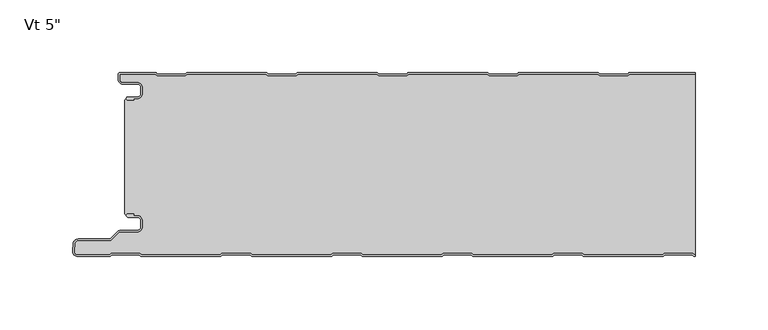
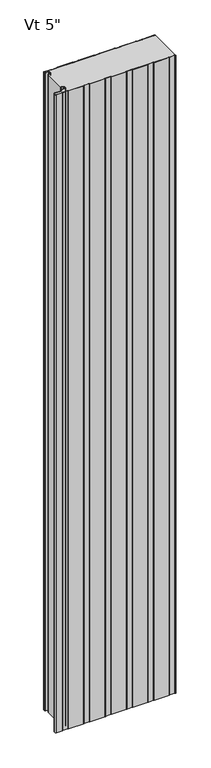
"""IFC4 building model written with IfcOpenShell, lengths in millimetres: plate geometry."""

from ifc_helpers import new_model, si_unit, point, frame, frame_2d, origin, origin_with_axes, place, context, project, spatial, polyline, circle_curve, trimmed, segment, composite_curve, outline, extrude, source, transform, mapped, element, save
from ifc_brep_helpers import plane_surface, cylinder_surface, revolved_surface, advanced_brep


def plate_6d36e98c(model_context):
    return source(origin(), model_context, "Body", "SolidModel", [
        advanced_brep(
        [(-194.5686912, -17.0015405, 2400.0), (-195.5686884, -18.0015437, 2400.0), (-194.5686912, -19.0015351, 2400.0), (-190.5684875, -19.0015351, 2400.0), (-190.5684875, -18.0015405, 2400.0), (-187.8762777, -18.0015405, 2400.0), (-184.576282, -14.7015448, 2400.0), (-184.576282, -10.3015536, 2400.0), (-187.8762775, -7.0015581, 2400.0), (-198.2962564, -7.0015581, 2400.0), (-200.0662506, -5.2315639, 2400.0), (-200.0662506, -1.0000163, 2400.0), (-175.565974, -1.0000162, 2400.0), (-174.1803314, -2.2002553, 2400.0), (-154.8051651, -2.2002553, 2400.0), (-153.4195321, -1.0000245, 2400.0), (-99.3661168, -1.0000245, 2400.0), (-97.9804838, -2.2002552, 2400.0), (-78.6053175, -2.2002551, 2400.0), (-77.2196845, -1.0000244, 2400.0), (-23.1662692, -1.0000243, 2400.0), (-21.7806362, -2.200255, 2400.0), (-2.4054699, -2.200255, 2400.0), (-1.0198369, -1.0000243, 2400.0), (53.0335784, -1.0000242, 2400.0), (54.4192114, -2.2002549, 2400.0), (73.7943777, -2.2002548, 2400.0), (75.1800107, -1.0000241, 2400.0), (129.233426, -1.000024, 2400.0), (130.619059, -2.2002547, 2400.0), (149.9942253, -2.2002547, 2400.0), (151.3798583, -1.000024, 2400.0), (196.5999997, -1.0000239, 2400.0), (196.5999997, -2.39e-05, 2400.0), (151.5290094, -2.4e-05, 2400.0), (150.6123925, -0.3418125, 2400.0), (149.6213449, -1.2002547, 2400.0), (130.9919394, -1.2002547, 2400.0), (130.0008918, -0.3418125, 2400.0), (129.0842749, -2.4e-05, 2400.0), (75.3291618, -2.41e-05, 2400.0), (74.4125449, -0.3418126, 2400.0), (73.4214973, -1.2002548, 2400.0), (54.7920918, -1.2002549, 2400.0), (53.8010442, -0.3418127, 2400.0), (52.8844273, -2.42e-05, 2400.0), (-0.8706858, -2.43e-05, 2400.0), (-1.7873027, -0.3418128, 2400.0), (-2.7783503, -1.200255, 2400.0), (-21.4077558, -1.200255, 2400.0), (-22.3988034, -0.3418128, 2400.0), (-23.3154203, -2.43e-05, 2400.0), (-77.0705334, -2.44e-05, 2400.0), (-77.9871503, -0.3418129, 2400.0), (-78.9781979, -1.2002551, 2400.0), (-97.6076034, -1.2002552, 2400.0), (-98.598651, -0.341813, 2400.0), (-99.5152679, -2.44e-05, 2400.0), (-153.270381, -2.45e-05, 2400.0), (-154.1869979, -0.3418131, 2400.0), (-155.1780455, -1.2002553, 2400.0), (-173.807451, -1.2002553, 2400.0), (-174.7984986, -0.3418131, 2400.0), (-175.7152069, -2.46e-05, 2400.0), (-199.6662545, -1.63e-05, 2400.0), (-201.0662506, -1.4000124, 2400.0), (-201.0662506, -5.2315639, 2400.0), (-198.2962564, -8.0015581, 2400.0), (-187.8762775, -8.0015581, 2400.0), (-185.576282, -10.3015536, 2400.0), (-185.576282, -14.7015448, 2400.0), (-187.8762777, -17.0015405, 2400.0), (-194.5686912, -17.0015405, 0.0), (-187.8762777, -17.0015405, 0.0), (-185.576282, -14.7015448, 0.0), (-185.576282, -10.3015536, 0.0), (-187.8762775, -8.0015581, 0.0), (-198.2962564, -8.0015581, 0.0), (-201.0662506, -5.2315639, 0.0), (-201.0662506, -1.4000124, 0.0), (-199.6662545, -1.63e-05, 0.0), (-175.7151155, -1.62e-05, 0.0), (-174.7984986, -0.3418131, 0.0), (-173.807451, -1.2002553, 0.0), (-155.1780455, -1.2002553, 0.0), (-154.1869979, -0.3418131, 0.0), (-153.270381, -2.45e-05, 0.0), (-99.5152679, -2.45e-05, 0.0), (-98.598651, -0.341813, 0.0), (-97.6076034, -1.2002552, 0.0), (-78.9781979, -1.2002551, 0.0), (-77.9871503, -0.3418129, 0.0), (-77.0705334, -2.44e-05, 0.0), (-23.3154203, -2.43e-05, 0.0), (-22.3988034, -0.3418128, 0.0), (-21.4077558, -1.200255, 0.0), (-2.7783503, -1.200255, 0.0), (-1.7873027, -0.3418128, 0.0), (-0.8706858, -2.43e-05, 0.0), (52.8844273, -2.42e-05, 0.0), (53.8010442, -0.3418127, 0.0), (54.7920918, -1.2002549, 0.0), (73.4214973, -1.2002548, 0.0), (74.4125449, -0.3418126, 0.0), (75.3291618, -2.41e-05, 0.0), (129.0842749, -2.4e-05, 0.0), (130.0008918, -0.3418125, 0.0), (130.9919394, -1.2002547, 0.0), (149.6213449, -1.2002547, 0.0), (150.6123925, -0.3418125, 0.0), (151.5290094, -2.4e-05, 0.0), (196.5999997, -2.39e-05, 0.0), (196.5999997, -1.0000239, 0.0), (151.3798583, -1.000024, 0.0), (149.9942253, -2.2002547, 0.0), (130.619059, -2.2002547, 0.0), (129.233426, -1.000024, 0.0), (75.1800107, -1.0000241, 0.0), (73.7943777, -2.2002548, 0.0), (54.4192114, -2.2002549, 0.0), (53.0335784, -1.0000242, 0.0), (-1.0198369, -1.0000243, 0.0), (-2.4054699, -2.200255, 0.0), (-21.7806362, -2.200255, 0.0), (-23.1662692, -1.0000243, 0.0), (-77.2196845, -1.0000244, 0.0), (-78.6053175, -2.2002551, 0.0), (-97.9804838, -2.2002552, 0.0), (-99.3661168, -1.0000245, 0.0), (-153.4195321, -1.0000245, 0.0), (-154.8051651, -2.2002553, 0.0), (-174.1803314, -2.2002553, 0.0), (-175.565974, -1.0000162, 0.0), (-200.0662506, -1.0000163, 0.0), (-200.0662506, -5.2315639, 0.0), (-198.2962564, -7.0015581, 0.0), (-187.8762775, -7.0015581, 0.0), (-184.576282, -10.3015536, 0.0), (-184.576282, -14.7015448, 0.0), (-187.8762777, -18.0015405, 0.0), (-190.5684875, -18.0015405, 0.0), (-190.5684875, -19.0015351, 0.0), (-194.5686912, -19.0015351, 0.0), (-195.5686883, -18.0015438, 0.0)],
        [
            (0, 1, circle_curve(frame((-194.5686912, -18.0015378, 2400.0), z_axis=(0.0, 0.0, 1.0), x_axis=(1.0, 1.7886562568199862e-09, 0.0)), 0.9999973)),
            (1, 2, circle_curve(frame((-194.5686912, -18.0015379, 2400.0), z_axis=(0.0, 0.0, 1.0), x_axis=(1.0, 1.7886562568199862e-09, 0.0)), 0.9999972)),
            (2, 3),
            (3, 4),
            (4, 5),
            (5, 6, circle_curve(frame((-187.8762777, -14.7015448, 2400.0), z_axis=(0.0, 0.0, 1.0), x_axis=(1.0, 1.7886562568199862e-09, 0.0)), 3.2999957)),
            (6, 7),
            (7, 8, circle_curve(frame((-187.8762775, -10.3015536, 2400.0), z_axis=(0.0, 0.0, 1.0), x_axis=(1.0, 1.7886562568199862e-09, 0.0)), 3.2999955)),
            (8, 9),
            (9, 10, circle_curve(frame((-198.2962564, -5.2315639, 2400.0), z_axis=(0.0, 0.0, -1.0), x_axis=(1.0, 1.7886562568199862e-09, 0.0)), 1.7699942)),
            (10, 11),
            (11, 12),
            (12, 13),
            (13, 14),
            (14, 15),
            (15, 16),
            (16, 17),
            (17, 18),
            (18, 19),
            (19, 20),
            (20, 21),
            (21, 22),
            (22, 23),
            (23, 24),
            (24, 25),
            (25, 26),
            (26, 27),
            (27, 28),
            (28, 29),
            (29, 30),
            (30, 31),
            (31, 32),
            (32, 33),
            (33, 34),
            (34, 35, circle_curve(frame((151.5290094, -1.4000212, 2400.0), z_axis=(0.0, 0.0, 1.0), x_axis=(1.0, 1.7886562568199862e-09, 0.0)), 1.3999972)),
            (35, 36),
            (36, 37),
            (37, 38),
            (38, 39, circle_curve(frame((129.0842749, -1.4000212, 2400.0), z_axis=(0.0, 0.0, 1.0), x_axis=(1.0, 1.7886562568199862e-09, 0.0)), 1.3999972)),
            (39, 40),
            (40, 41, circle_curve(frame((75.3291618, -1.4000213, 2400.0), z_axis=(0.0, 0.0, 1.0), x_axis=(1.0, 1.7886562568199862e-09, 0.0)), 1.3999972)),
            (41, 42),
            (42, 43),
            (43, 44),
            (44, 45, circle_curve(frame((52.8844273, -1.4000214, 2400.0), z_axis=(0.0, 0.0, 1.0), x_axis=(1.0, 1.7886562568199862e-09, 0.0)), 1.3999972)),
            (45, 46),
            (46, 47, circle_curve(frame((-0.8706858, -1.4000215, 2400.0), z_axis=(0.0, 0.0, 1.0), x_axis=(1.0, 1.7886562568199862e-09, 0.0)), 1.3999972)),
            (47, 48),
            (48, 49),
            (49, 50),
            (50, 51, circle_curve(frame((-23.3154203, -1.4000215, 2400.0), z_axis=(0.0, 0.0, 1.0), x_axis=(1.0, 1.7886562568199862e-09, 0.0)), 1.3999972)),
            (51, 52),
            (52, 53, circle_curve(frame((-77.0705334, -1.4000216, 2400.0), z_axis=(0.0, 0.0, 1.0), x_axis=(1.0, 1.7886562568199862e-09, 0.0)), 1.3999972)),
            (53, 54),
            (54, 55),
            (55, 56),
            (56, 57, circle_curve(frame((-99.5152679, -1.4000216, 2400.0), z_axis=(0.0, 0.0, 1.0), x_axis=(1.0, 1.7886562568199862e-09, 0.0)), 1.3999972)),
            (57, 58),
            (58, 59, circle_curve(frame((-153.270381, -1.4000217, 2400.0), z_axis=(0.0, 0.0, 1.0), x_axis=(1.0, 1.7886562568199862e-09, 0.0)), 1.3999972)),
            (59, 60),
            (60, 61),
            (61, 62),
            (62, 63, circle_curve(frame((-175.7151155, -1.4000218, 2400.0), z_axis=(0.0, 0.0, 1.0), x_axis=(1.0, 1.7886562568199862e-09, 0.0)), 1.3999972)),
            (63, 64),
            (64, 65, circle_curve(frame((-199.6662545, -1.4000124, 2400.0), z_axis=(0.0, 0.0, 1.0), x_axis=(1.0, 1.7886562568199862e-09, 0.0)), 1.3999962)),
            (65, 66),
            (66, 67, circle_curve(frame((-198.2962564, -5.2315639, 2400.0), z_axis=(0.0, 0.0, 1.0), x_axis=(1.0, 1.7886562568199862e-09, 0.0)), 2.7699942)),
            (67, 68),
            (68, 69, circle_curve(frame((-187.8762775, -10.3015536, 2400.0), z_axis=(0.0, 0.0, -1.0), x_axis=(1.0, 1.7886562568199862e-09, 0.0)), 2.2999955)),
            (69, 70),
            (70, 71, circle_curve(frame((-187.8762777, -14.7015448, 2400.0), z_axis=(0.0, 0.0, -1.0), x_axis=(1.0, 1.7886562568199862e-09, 0.0)), 2.2999957)),
            (71, 0),
            (72, 73),
            (73, 74, circle_curve(frame((-187.8762777, -14.7015448, 0.0), z_axis=(0.0, 0.0, 1.0), x_axis=(1.0, 1.7886562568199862e-09, 0.0)), 2.2999957)),
            (74, 75),
            (75, 76, circle_curve(frame((-187.8762775, -10.3015536, 0.0), z_axis=(0.0, 0.0, 1.0), x_axis=(1.0, 1.7886562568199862e-09, 0.0)), 2.2999955)),
            (76, 77),
            (77, 78, circle_curve(frame((-198.2962564, -5.2315639, 0.0), z_axis=(0.0, 0.0, -1.0), x_axis=(1.0, 1.7886562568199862e-09, 0.0)), 2.7699942)),
            (78, 79),
            (79, 80, circle_curve(frame((-199.6662545, -1.4000124, 0.0), z_axis=(0.0, 0.0, -1.0), x_axis=(1.0, 1.7886562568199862e-09, 0.0)), 1.3999962)),
            (80, 81),
            (81, 82, circle_curve(frame((-175.7151155, -1.4000218, 0.0), z_axis=(0.0, 0.0, -1.0), x_axis=(1.0, 1.7886562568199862e-09, 0.0)), 1.3999972)),
            (82, 83),
            (83, 84),
            (84, 85),
            (85, 86, circle_curve(frame((-153.270381, -1.4000217, 0.0), z_axis=(0.0, 0.0, -1.0), x_axis=(1.0, 1.7886562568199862e-09, 0.0)), 1.3999972)),
            (86, 87),
            (87, 88, circle_curve(frame((-99.5152679, -1.4000216, 0.0), z_axis=(0.0, 0.0, -1.0), x_axis=(1.0, 1.7886562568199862e-09, 0.0)), 1.3999972)),
            (88, 89),
            (89, 90),
            (90, 91),
            (91, 92, circle_curve(frame((-77.0705334, -1.4000216, 0.0), z_axis=(0.0, 0.0, -1.0), x_axis=(1.0, 1.7886562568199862e-09, 0.0)), 1.3999972)),
            (92, 93),
            (93, 94, circle_curve(frame((-23.3154203, -1.4000215, 0.0), z_axis=(0.0, 0.0, -1.0), x_axis=(1.0, 1.7886562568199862e-09, 0.0)), 1.3999972)),
            (94, 95),
            (95, 96),
            (96, 97),
            (97, 98, circle_curve(frame((-0.8706858, -1.4000215, 0.0), z_axis=(0.0, 0.0, -1.0), x_axis=(1.0, 1.7886562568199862e-09, 0.0)), 1.3999972)),
            (98, 99),
            (99, 100, circle_curve(frame((52.8844273, -1.4000214, 0.0), z_axis=(0.0, 0.0, -1.0), x_axis=(1.0, 1.7886562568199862e-09, 0.0)), 1.3999972)),
            (100, 101),
            (101, 102),
            (102, 103),
            (103, 104, circle_curve(frame((75.3291618, -1.4000213, 0.0), z_axis=(0.0, 0.0, -1.0), x_axis=(1.0, 1.7886562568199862e-09, 0.0)), 1.3999972)),
            (104, 105),
            (105, 106, circle_curve(frame((129.0842749, -1.4000212, 0.0), z_axis=(0.0, 0.0, -1.0), x_axis=(1.0, 1.7886562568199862e-09, 0.0)), 1.3999972)),
            (106, 107),
            (107, 108),
            (108, 109),
            (109, 110, circle_curve(frame((151.5290094, -1.4000212, 0.0), z_axis=(0.0, 0.0, -1.0), x_axis=(1.0, 1.7886562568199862e-09, 0.0)), 1.3999972)),
            (110, 111),
            (111, 112),
            (112, 113),
            (113, 114),
            (114, 115),
            (115, 116),
            (116, 117),
            (117, 118),
            (118, 119),
            (119, 120),
            (120, 121),
            (121, 122),
            (122, 123),
            (123, 124),
            (124, 125),
            (125, 126),
            (126, 127),
            (127, 128),
            (128, 129),
            (129, 130),
            (130, 131),
            (131, 132),
            (132, 133),
            (133, 134),
            (134, 135, circle_curve(frame((-198.2962564, -5.2315639, 0.0), z_axis=(0.0, 0.0, 1.0), x_axis=(1.0, 1.7886562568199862e-09, 0.0)), 1.7699942)),
            (135, 136),
            (136, 137, circle_curve(frame((-187.8762775, -10.3015536, 0.0), z_axis=(0.0, 0.0, -1.0), x_axis=(1.0, 1.7886562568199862e-09, 0.0)), 3.2999955)),
            (137, 138),
            (138, 139, circle_curve(frame((-187.8762777, -14.7015448, 0.0), z_axis=(0.0, 0.0, -1.0), x_axis=(1.0, 1.7886562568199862e-09, 0.0)), 3.2999957)),
            (139, 140),
            (140, 141),
            (141, 142),
            (142, 143, circle_curve(frame((-194.5686912, -18.0015379, 0.0), z_axis=(0.0, 0.0, -1.0), x_axis=(1.0, 1.7886562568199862e-09, 0.0)), 0.9999972)),
            (143, 72, circle_curve(frame((-194.5686912, -18.0015378, 0.0), z_axis=(0.0, 0.0, -1.0), x_axis=(1.0, 1.7886562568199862e-09, 0.0)), 0.9999973)),
            (32, 112),
            (111, 33),
            (71, 73),
            (72, 0),
            (70, 74),
            (69, 75),
            (68, 76),
            (67, 77),
            (66, 78),
            (65, 79),
            (64, 80),
            (63, 81),
            (62, 82),
            (61, 83),
            (60, 84),
            (59, 85),
            (58, 86),
            (57, 87),
            (56, 88),
            (55, 89),
            (54, 90),
            (53, 91),
            (52, 92),
            (51, 93),
            (50, 94),
            (49, 95),
            (48, 96),
            (47, 97),
            (46, 98),
            (45, 99),
            (44, 100),
            (43, 101),
            (42, 102),
            (41, 103),
            (40, 104),
            (39, 105),
            (38, 106),
            (37, 107),
            (36, 108),
            (35, 109),
            (34, 110),
            (31, 113),
            (30, 114),
            (29, 115),
            (28, 116),
            (27, 117),
            (26, 118),
            (25, 119),
            (24, 120),
            (23, 121),
            (22, 122),
            (21, 123),
            (20, 124),
            (19, 125),
            (18, 126),
            (17, 127),
            (16, 128),
            (15, 129),
            (14, 130),
            (13, 131),
            (12, 132),
            (11, 133),
            (10, 134),
            (9, 135),
            (8, 136),
            (7, 137),
            (6, 138),
            (5, 139),
            (4, 140),
            (3, 141),
            (2, 142),
            (1, 143),
        ],
        [
            plane_surface(frame((336.8, -2.37e-05, 2400.0), z_axis=(0.0, 0.0, 1.0), x_axis=(-1.7886562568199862e-09, 1.0, 0.0))),
            plane_surface(frame((336.8, -2.37e-05, 0.0), z_axis=(0.0, 0.0, -1.0), x_axis=(-1.7886562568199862e-09, 1.0, 0.0))),
            plane_surface(frame((196.5999999, -137.0000239, 2400.0), z_axis=(1.0, 1.7886562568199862e-09, 0.0), x_axis=(0.0, 0.0, -1.0))),
            plane_surface(frame((-194.5686912, -17.0015405, 2400.0), z_axis=(-1.7886562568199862e-09, 1.0, 0.0), x_axis=(0.0, 0.0, -1.0))),
            revolved_surface(polyline([(-185.576282, -14.701544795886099, 0.0), (-185.576282, -14.701544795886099, 2400.0)]), (-187.8762777, -14.7015448, 2400.0), (0.0, 0.0, -1.0)),
            plane_surface(frame((-185.576282, -14.7015448, 2400.0), z_axis=(-1.0, -1.7886562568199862e-09, 0.0), x_axis=(0.0, 0.0, -1.0))),
            revolved_surface(polyline([(-185.576282, -10.301553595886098, 0.0), (-185.576282, -10.301553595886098, 2400.0)]), (-187.8762775, -10.3015536, 2400.0), (0.0, 0.0, -1.0)),
            plane_surface(frame((-187.8762775, -8.0015581, 2400.0), z_axis=(1.7886562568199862e-09, -1.0, 0.0), x_axis=(0.0, 0.0, -1.0))),
            cylinder_surface(frame((-198.2962564, -5.2315639, 2400.0), z_axis=(0.0, 0.0, 1.0), x_axis=(1.0, 1.7886562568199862e-09, 0.0)), 2.7699942),
            plane_surface(frame((-201.0662506, -5.2315639, 2400.0), z_axis=(-1.0, -1.7886562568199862e-09, 0.0), x_axis=(0.0, 0.0, -1.0))),
            cylinder_surface(frame((-199.6662545, -1.4000124, 2400.0), z_axis=(0.0, 0.0, 1.0), x_axis=(1.0, 1.7886562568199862e-09, 0.0)), 1.3999962),
            plane_surface(frame((-199.6662545, -1.63e-05, 2400.0), z_axis=(-1.7886562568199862e-09, 1.0, 0.0), x_axis=(0.0, 0.0, -1.0))),
            cylinder_surface(frame((-175.7151155, -1.4000218, 2400.0), z_axis=(0.0, 0.0, 1.0), x_axis=(1.0, 1.7886562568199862e-09, 0.0)), 1.3999972),
            plane_surface(frame((-174.7984986, -0.3418131, 2400.0), z_axis=(0.6547276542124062, 0.7558648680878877, 0.0), x_axis=(0.0, 0.0, -1.0))),
            plane_surface(frame((-164.4927482, -1.2002553, 2400.0), z_axis=(-1.7886562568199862e-09, 1.0, 0.0), x_axis=(0.0, 0.0, -1.0))),
            plane_surface(frame((-155.1780455, -1.2002553, 2400.0), z_axis=(-0.654727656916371, 0.7558648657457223, 0.0), x_axis=(0.0, 0.0, -1.0))),
            cylinder_surface(frame((-153.270381, -1.4000217, 2400.0), z_axis=(0.0, 0.0, 1.0), x_axis=(1.0, 1.7886562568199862e-09, 0.0)), 1.3999972),
            plane_surface(frame((-153.270381, -2.45e-05, 2400.0), z_axis=(-1.7886512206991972e-09, 1.0, 0.0), x_axis=(0.0, 0.0, -1.0))),
            cylinder_surface(frame((-99.5152679, -1.4000216, 2400.0), z_axis=(0.0, 0.0, 1.0), x_axis=(1.0, 1.7886562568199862e-09, 0.0)), 1.3999972),
            plane_surface(frame((-98.598651, -0.341813, 2400.0), z_axis=(0.6547276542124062, 0.7558648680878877, 0.0), x_axis=(0.0, 0.0, -1.0))),
            plane_surface(frame((-88.2929006, -1.2002551, 2400.0), z_axis=(-1.7886562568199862e-09, 1.0, 0.0), x_axis=(0.0, 0.0, -1.0))),
            plane_surface(frame((-78.9781979, -1.2002551, 2400.0), z_axis=(-0.654727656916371, 0.7558648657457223, 0.0), x_axis=(0.0, 0.0, -1.0))),
            cylinder_surface(frame((-77.0705334, -1.4000216, 2400.0), z_axis=(0.0, 0.0, 1.0), x_axis=(1.0, 1.7886562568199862e-09, 0.0)), 1.3999972),
            plane_surface(frame((-77.0705334, -2.44e-05, 2400.0), z_axis=(-1.7886512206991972e-09, 1.0, 0.0), x_axis=(0.0, 0.0, -1.0))),
            cylinder_surface(frame((-23.3154203, -1.4000215, 2400.0), z_axis=(0.0, 0.0, 1.0), x_axis=(1.0, 1.7886562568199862e-09, 0.0)), 1.3999972),
            plane_surface(frame((-22.3988034, -0.3418128, 2400.0), z_axis=(0.6547276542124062, 0.7558648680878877, 0.0), x_axis=(0.0, 0.0, -1.0))),
            plane_surface(frame((-12.093053, -1.200255, 2400.0), z_axis=(-1.7886562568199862e-09, 1.0, 0.0), x_axis=(0.0, 0.0, -1.0))),
            plane_surface(frame((-2.7783503, -1.200255, 2400.0), z_axis=(-0.654727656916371, 0.7558648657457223, 0.0), x_axis=(0.0, 0.0, -1.0))),
            cylinder_surface(frame((-0.8706858, -1.4000215, 2400.0), z_axis=(0.0, 0.0, 1.0), x_axis=(1.0, 1.7886562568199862e-09, 0.0)), 1.3999972),
            plane_surface(frame((-0.8706858, -2.43e-05, 2400.0), z_axis=(-1.7886512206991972e-09, 1.0, 0.0), x_axis=(0.0, 0.0, -1.0))),
            cylinder_surface(frame((52.8844273, -1.4000214, 2400.0), z_axis=(0.0, 0.0, 1.0), x_axis=(1.0, 1.7886562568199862e-09, 0.0)), 1.3999972),
            plane_surface(frame((53.8010442, -0.3418127, 2400.0), z_axis=(0.6547276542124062, 0.7558648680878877, 0.0), x_axis=(0.0, 0.0, -1.0))),
            plane_surface(frame((64.1067946, -1.2002549, 2400.0), z_axis=(-1.7886562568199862e-09, 1.0, 0.0), x_axis=(0.0, 0.0, -1.0))),
            plane_surface(frame((73.4214973, -1.2002548, 2400.0), z_axis=(-0.654727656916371, 0.7558648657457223, 0.0), x_axis=(0.0, 0.0, -1.0))),
            cylinder_surface(frame((75.3291618, -1.4000213, 2400.0), z_axis=(0.0, 0.0, 1.0), x_axis=(1.0, 1.7886562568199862e-09, 0.0)), 1.3999972),
            plane_surface(frame((75.3291618, -2.41e-05, 2400.0), z_axis=(-1.7886512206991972e-09, 1.0, 0.0), x_axis=(0.0, 0.0, -1.0))),
            cylinder_surface(frame((129.0842749, -1.4000212, 2400.0), z_axis=(0.0, 0.0, 1.0), x_axis=(1.0, 1.7886562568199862e-09, 0.0)), 1.3999972),
            plane_surface(frame((130.0008918, -0.3418125, 2400.0), z_axis=(0.6547276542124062, 0.7558648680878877, 0.0), x_axis=(0.0, 0.0, -1.0))),
            plane_surface(frame((140.3066422, -1.2002547, 2400.0), z_axis=(-1.7886562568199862e-09, 1.0, 0.0), x_axis=(0.0, 0.0, -1.0))),
            plane_surface(frame((149.6213449, -1.2002547, 2400.0), z_axis=(-0.654727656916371, 0.7558648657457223, 0.0), x_axis=(0.0, 0.0, -1.0))),
            cylinder_surface(frame((151.5290094, -1.4000212, 2400.0), z_axis=(0.0, 0.0, 1.0), x_axis=(1.0, 1.7886562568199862e-09, 0.0)), 1.3999972),
            plane_surface(frame((151.5290094, -2.4e-05, 2400.0), z_axis=(-1.7886512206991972e-09, 1.0, 0.0), x_axis=(0.0, 0.0, -1.0))),
            plane_surface(frame((205.4332736, -1.0000239, 2400.0), z_axis=(1.7886512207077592e-09, -1.0, 0.0), x_axis=(0.0, 0.0, -1.0))),
            plane_surface(frame((151.3798583, -1.000024, 2400.0), z_axis=(0.654727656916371, -0.7558648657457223, 0.0), x_axis=(0.0, 0.0, -1.0))),
            plane_surface(frame((149.9942253, -2.2002547, 2400.0), z_axis=(1.7886562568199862e-09, -1.0, 0.0), x_axis=(0.0, 0.0, -1.0))),
            plane_surface(frame((130.619059, -2.2002547, 2400.0), z_axis=(-0.6547276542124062, -0.7558648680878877, 0.0), x_axis=(0.0, 0.0, -1.0))),
            plane_surface(frame((129.233426, -1.000024, 2400.0), z_axis=(1.7886512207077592e-09, -1.0, 0.0), x_axis=(0.0, 0.0, -1.0))),
            plane_surface(frame((75.1800107, -1.0000241, 2400.0), z_axis=(0.654727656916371, -0.7558648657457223, 0.0), x_axis=(0.0, 0.0, -1.0))),
            plane_surface(frame((73.7943777, -2.2002548, 2400.0), z_axis=(1.7886562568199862e-09, -1.0, 0.0), x_axis=(0.0, 0.0, -1.0))),
            plane_surface(frame((54.4192114, -2.2002549, 2400.0), z_axis=(-0.6547276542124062, -0.7558648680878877, 0.0), x_axis=(0.0, 0.0, -1.0))),
            plane_surface(frame((53.0335784, -1.0000242, 2400.0), z_axis=(1.7886512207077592e-09, -1.0, 0.0), x_axis=(0.0, 0.0, -1.0))),
            plane_surface(frame((-1.0198369, -1.0000243, 2400.0), z_axis=(0.654727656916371, -0.7558648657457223, 0.0), x_axis=(0.0, 0.0, -1.0))),
            plane_surface(frame((-2.4054699, -2.200255, 2400.0), z_axis=(1.7886562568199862e-09, -1.0, 0.0), x_axis=(0.0, 0.0, -1.0))),
            plane_surface(frame((-21.7806362, -2.200255, 2400.0), z_axis=(-0.6547276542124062, -0.7558648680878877, 0.0), x_axis=(0.0, 0.0, -1.0))),
            plane_surface(frame((-23.1662692, -1.0000243, 2400.0), z_axis=(1.7886512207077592e-09, -1.0, 0.0), x_axis=(0.0, 0.0, -1.0))),
            plane_surface(frame((-77.2196845, -1.0000244, 2400.0), z_axis=(0.654727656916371, -0.7558648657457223, 0.0), x_axis=(0.0, 0.0, -1.0))),
            plane_surface(frame((-78.6053175, -2.2002551, 2400.0), z_axis=(1.7886562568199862e-09, -1.0, 0.0), x_axis=(0.0, 0.0, -1.0))),
            plane_surface(frame((-97.9804838, -2.2002552, 2400.0), z_axis=(-0.6547276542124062, -0.7558648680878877, 0.0), x_axis=(0.0, 0.0, -1.0))),
            plane_surface(frame((-99.3661168, -1.0000245, 2400.0), z_axis=(1.7886512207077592e-09, -1.0, 0.0), x_axis=(0.0, 0.0, -1.0))),
            plane_surface(frame((-153.4195321, -1.0000245, 2400.0), z_axis=(0.654727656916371, -0.7558648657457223, 0.0), x_axis=(0.0, 0.0, -1.0))),
            plane_surface(frame((-154.8051651, -2.2002553, 2400.0), z_axis=(1.7886562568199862e-09, -1.0, 0.0), x_axis=(0.0, 0.0, -1.0))),
            plane_surface(frame((-174.1803314, -2.2002553, 2400.0), z_axis=(-0.6547276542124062, -0.7558648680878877, 0.0), x_axis=(0.0, 0.0, -1.0))),
            plane_surface(frame((-175.565974, -1.0000162, 2400.0), z_axis=(1.7886562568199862e-09, -1.0, 0.0), x_axis=(0.0, 0.0, -1.0))),
            plane_surface(frame((-200.0662506, -1.0000163, 2400.0), z_axis=(1.0, 1.7886562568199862e-09, 0.0), x_axis=(0.0, 0.0, -1.0))),
            revolved_surface(polyline([(-196.5262622, -5.231563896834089, 0.0), (-196.5262622, -5.231563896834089, 2400.0)]), (-198.2962564, -5.2315639, 2400.0), (0.0, 0.0, -1.0)),
            plane_surface(frame((-198.2962564, -7.0015581, 2400.0), z_axis=(-1.7886562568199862e-09, 1.0, 0.0), x_axis=(0.0, 0.0, -1.0))),
            cylinder_surface(frame((-187.8762775, -10.3015536, 2400.0), z_axis=(0.0, 0.0, 1.0), x_axis=(1.0, 1.7886562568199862e-09, 0.0)), 3.2999955),
            plane_surface(frame((-184.576282, -10.3015536, 2400.0), z_axis=(1.0, 1.7886562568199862e-09, 0.0), x_axis=(0.0, 0.0, -1.0))),
            cylinder_surface(frame((-187.8762777, -14.7015448, 2400.0), z_axis=(0.0, 0.0, 1.0), x_axis=(1.0, 1.7886562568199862e-09, 0.0)), 3.2999957),
            plane_surface(frame((-187.8762777, -18.0015405, 2400.0), z_axis=(1.7886562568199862e-09, -1.0, 0.0), x_axis=(0.0, 0.0, -1.0))),
            plane_surface(frame((-190.5684875, -18.0015405, 2400.0), z_axis=(1.0, 1.7886562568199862e-09, 0.0), x_axis=(0.0, 0.0, -1.0))),
            plane_surface(frame((-190.5684875, -19.0015351, 2400.0), z_axis=(1.7886562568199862e-09, -1.0, 0.0), x_axis=(0.0, 0.0, -1.0))),
            cylinder_surface(frame((-194.5686912, -18.0015379, 2400.0), z_axis=(0.0, 0.0, 1.0), x_axis=(1.0, 1.7886562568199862e-09, 0.0)), 0.9999972),
            cylinder_surface(frame((-194.5686912, -18.0015378, 2400.0), z_axis=(0.0, 0.0, 1.0), x_axis=(1.0, 1.7886562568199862e-09, 0.0)), 0.9999973),
        ],
        [
            (0, [[1, 2, 3, 4, 5, 6, 7, 8, 9, 10, 11, 12, 13, 14, 15, 16, 17, 18, 19, 20, 21, 22, 23, 24, 25, 26, 27, 28, 29, 30, 31, 32, 33, 34, 35, 36, 37, 38, 39, 40, 41, 42, 43, 44, 45, 46, 47, 48, 49, 50, 51, 52, 53, 54, 55, 56, 57, 58, 59, 60, 61, 62, 63, 64, 65, 66, 67, 68, 69, 70, 71, 72]]),
            (1, [[73, 74, 75, 76, 77, 78, 79, 80, 81, 82, 83, 84, 85, 86, 87, 88, 89, 90, 91, 92, 93, 94, 95, 96, 97, 98, 99, 100, 101, 102, 103, 104, 105, 106, 107, 108, 109, 110, 111, 112, 113, 114, 115, 116, 117, 118, 119, 120, 121, 122, 123, 124, 125, 126, 127, 128, 129, 130, 131, 132, 133, 134, 135, 136, 137, 138, 139, 140, 141, 142, 143, 144]]),
            (2, [[145, -112, 146, -33]]),
            (3, [[147, -73, 148, -72]]),
            (4, [[149, -74, -147, -71]]),
            (5, [[150, -75, -149, -70]]),
            (6, [[151, -76, -150, -69]]),
            (7, [[152, -77, -151, -68]]),
            (8, [[153, -78, -152, -67]]),
            (9, [[154, -79, -153, -66]]),
            (10, [[155, -80, -154, -65]]),
            (11, [[156, -81, -155, -64]]),
            (12, [[157, -82, -156, -63]]),
            (13, [[158, -83, -157, -62]]),
            (14, [[159, -84, -158, -61]]),
            (15, [[160, -85, -159, -60]]),
            (16, [[161, -86, -160, -59]]),
            (17, [[162, -87, -161, -58]]),
            (18, [[163, -88, -162, -57]]),
            (19, [[164, -89, -163, -56]]),
            (20, [[165, -90, -164, -55]]),
            (21, [[166, -91, -165, -54]]),
            (22, [[167, -92, -166, -53]]),
            (23, [[168, -93, -167, -52]]),
            (24, [[169, -94, -168, -51]]),
            (25, [[170, -95, -169, -50]]),
            (26, [[171, -96, -170, -49]]),
            (27, [[172, -97, -171, -48]]),
            (28, [[173, -98, -172, -47]]),
            (29, [[174, -99, -173, -46]]),
            (30, [[175, -100, -174, -45]]),
            (31, [[176, -101, -175, -44]]),
            (32, [[177, -102, -176, -43]]),
            (33, [[178, -103, -177, -42]]),
            (34, [[179, -104, -178, -41]]),
            (35, [[180, -105, -179, -40]]),
            (36, [[181, -106, -180, -39]]),
            (37, [[182, -107, -181, -38]]),
            (38, [[183, -108, -182, -37]]),
            (39, [[184, -109, -183, -36]]),
            (40, [[185, -110, -184, -35]]),
            (41, [[-34, -146, -111, -185]]),
            (42, [[-113, -145, -32, 186]]),
            (43, [[187, -114, -186, -31]]),
            (44, [[188, -115, -187, -30]]),
            (45, [[189, -116, -188, -29]]),
            (46, [[190, -117, -189, -28]]),
            (47, [[191, -118, -190, -27]]),
            (48, [[192, -119, -191, -26]]),
            (49, [[193, -120, -192, -25]]),
            (50, [[194, -121, -193, -24]]),
            (51, [[195, -122, -194, -23]]),
            (52, [[196, -123, -195, -22]]),
            (53, [[197, -124, -196, -21]]),
            (54, [[198, -125, -197, -20]]),
            (55, [[199, -126, -198, -19]]),
            (56, [[200, -127, -199, -18]]),
            (57, [[201, -128, -200, -17]]),
            (58, [[202, -129, -201, -16]]),
            (59, [[203, -130, -202, -15]]),
            (60, [[204, -131, -203, -14]]),
            (61, [[205, -132, -204, -13]]),
            (62, [[206, -133, -205, -12]]),
            (63, [[207, -134, -206, -11]]),
            (64, [[208, -135, -207, -10]]),
            (65, [[209, -136, -208, -9]]),
            (66, [[210, -137, -209, -8]]),
            (67, [[211, -138, -210, -7]]),
            (68, [[212, -139, -211, -6]]),
            (69, [[213, -140, -212, -5]]),
            (70, [[214, -141, -213, -4]]),
            (71, [[215, -142, -214, -3]]),
            (72, [[216, -143, -215, -2]]),
            (73, [[-148, -144, -216, -1]]),
        ],
    ),
        extrude(outline(composite_curve([segment(polyline([(-207.2415932, -127.0006641), (-229.0521174, -127.0006641)]), True, "CONTINUOUS"), segment(trimmed(circle_curve(frame_2d((-229.0521174, -123.4304248)), 3.5702393), [point((-229.0521174, -127.0006641))], [point((-232.6087618, -123.1191544))], False, "CARTESIAN"), True, "CONTINUOUS"), segment(polyline([(-232.6087618, -123.1191544), (-232.1690673, -118.0951078)]), True, "CONTINUOUS"), segment(trimmed(circle_curve(frame_2d((-228.519839, -118.7059089)), 3.6999926), [point((-232.1690673, -118.0951078))], [point((-228.519839, -115.0059163))], False, "CARTESIAN"), True, "CONTINUOUS"), segment(polyline([(-228.519839, -115.0059163), (-207.3773995, -115.0059163)]), True, "CONTINUOUS"), segment(trimmed(circle_curve(frame_2d((-207.3773995, -113.7059189)), 1.2999974), [point((-207.3773995, -115.0059163))], [point((-206.4581625, -114.6251558))], True, "CARTESIAN"), True, "CONTINUOUS"), segment(polyline([(-206.4581625, -114.6251558), (-201.6297451, -109.7967384)]), True, "CONTINUOUS"), segment(trimmed(circle_curve(frame_2d((-199.7205606, -111.7059229)), 2.6999946), [point((-201.6297451, -109.7967384))], [point((-199.7205606, -109.0059283))], False, "CARTESIAN"), True, "CONTINUOUS"), segment(polyline([(-199.7205606, -109.0059283), (-187.9096715, -109.0059282)]), True, "CONTINUOUS"), segment(trimmed(circle_curve(frame_2d((-187.9096715, -106.6559329)), 2.3499953), [point((-187.9096715, -109.0059282))], [point((-185.5596762, -106.6559329))], True, "CARTESIAN"), True, "CONTINUOUS"), segment(polyline([(-185.5596762, -106.6559329), (-185.5596762, -102.2559417)]), True, "CONTINUOUS"), segment(trimmed(circle_curve(frame_2d((-187.9096715, -102.2559417)), 2.3499953), [point((-185.5596762, -102.2559417))], [point((-187.9096715, -99.9059464))], True, "CARTESIAN"), True, "CONTINUOUS"), segment(polyline([(-187.9096715, -99.9059464), (-194.4289777, -99.9059464)]), True, "CONTINUOUS"), segment(trimmed(circle_curve(frame_2d((-194.3686906, -98.7074642)), 1.1999976), [point((-194.4289777, -99.9059464))], [point((-195.5683, -98.6769423))], False, "CARTESIAN"), True, "CONTINUOUS"), segment(trimmed(circle_curve(frame_2d((-194.3686906, -98.7074642)), 1.1999976), [point((-195.5683, -98.6769423))], [point((-194.367176, -97.5074676))], False, "CARTESIAN"), True, "CONTINUOUS"), segment(polyline([(-194.367176, -97.5074676), (-190.6087826, -97.5074675), (-190.6087826, -98.9059464), (-187.9096715, -98.9059464)]), True, "CONTINUOUS"), segment(trimmed(circle_curve(frame_2d((-187.9096715, -102.2559417)), 3.3499953), [point((-187.9096715, -98.9059464))], [point((-184.5596762, -102.2559417))], False, "CARTESIAN"), True, "CONTINUOUS"), segment(polyline([(-184.5596762, -102.2559417), (-184.5596762, -106.6559329)]), True, "CONTINUOUS"), segment(trimmed(circle_curve(frame_2d((-187.9096715, -106.6559329)), 3.3499953), [point((-184.5596762, -106.6559329))], [point((-187.9096715, -110.0059282))], False, "CARTESIAN"), True, "CONTINUOUS"), segment(polyline([(-187.9096715, -110.0059282), (-199.7205606, -110.0059283)]), True, "CONTINUOUS"), segment(trimmed(circle_curve(frame_2d((-199.7205606, -111.7059229)), 1.6999946), [point((-199.7205606, -110.0059283))], [point((-200.9226383, -110.5038452))], True, "CARTESIAN"), True, "CONTINUOUS"), segment(polyline([(-200.9226383, -110.5038452), (-206.4247094, -116.0059163), (-228.519839, -116.0059163)]), True, "CONTINUOUS"), segment(trimmed(circle_curve(frame_2d((-228.519839, -118.7059089)), 2.6999926), [point((-228.519839, -116.0059163))], [point((-231.1765707, -118.2245183))], True, "CARTESIAN"), True, "CONTINUOUS"), segment(polyline([(-231.1765707, -118.2245183), (-231.6125697, -123.2063392)]), True, "CONTINUOUS"), segment(trimmed(circle_curve(frame_2d((-229.0521174, -123.4304248)), 2.5702393), [point((-231.6125697, -123.2063392))], [point((-229.0521174, -126.0006641))], True, "CARTESIAN"), True, "CONTINUOUS"), segment(polyline([(-229.0521174, -126.0006641), (-207.079096, -126.0006641), (-205.8791275, -124.8006955), (-186.1597149, -124.8006955), (-184.9594842, -126.0009262), (-130.8793525, -126.0009261), (-129.6791218, -124.8006954), (-109.9597093, -124.8006954), (-108.7594785, -126.0009261), (-54.6793468, -126.000926), (-53.4791161, -124.8006953), (-33.7597036, -124.8006952), (-32.5594729, -126.0009259), (21.5206589, -126.0009258), (22.7208896, -124.8006951), (42.4403021, -124.8006951), (43.6405328, -126.0009258), (97.7206646, -126.0009257), (98.9208953, -124.800695), (118.6403078, -124.800695), (119.8405385, -126.0009257), (173.9206703, -126.0009256), (175.120901, -124.8006949), (194.8403135, -124.8006948), (196.0405442, -126.0009255), (196.5999999, -126.0009255), (196.5999999, -127.0009255), (196.2099792, -127.0009255)]), True, "CONTINUOUS"), segment(trimmed(circle_curve(frame_2d((196.2023259, -125.6009492)), 1.3999972), [point((196.2099792, -127.0009255))], [point((195.1582751, -126.5336604))], False, "CARTESIAN"), True, "CONTINUOUS"), segment(polyline([(195.1582751, -126.5336604), (194.4253095, -125.8006948), (175.5346403, -125.8006949), (174.8016956, -126.5336395)]), True, "CONTINUOUS"), segment(trimmed(circle_curve(frame_2d((173.7576448, -125.6009284)), 1.3999972), [point((174.8016956, -126.5336395))], [point((173.7576448, -127.0009256))], False, "CARTESIAN"), True, "CONTINUOUS"), segment(polyline([(173.7576448, -127.0009256), (120.0101316, -127.0009257)]), True, "CONTINUOUS"), segment(trimmed(circle_curve(frame_2d((120.0024783, -125.6009494)), 1.3999972), [point((120.0101316, -127.0009257))], [point((118.9584275, -126.5336605))], False, "CARTESIAN"), True, "CONTINUOUS"), segment(polyline([(118.9584275, -126.5336605), (118.2254619, -125.800695), (99.3347927, -125.800695), (98.601848, -126.5336397)]), True, "CONTINUOUS"), segment(trimmed(circle_curve(frame_2d((97.5577972, -125.6009285)), 1.3999972), [point((98.601848, -126.5336397))], [point((97.5577972, -127.0009257))], False, "CARTESIAN"), True, "CONTINUOUS"), segment(polyline([(97.5577972, -127.0009257), (43.810284, -127.0009258)]), True, "CONTINUOUS"), segment(trimmed(circle_curve(frame_2d((43.8026307, -125.6009495)), 1.3999972), [point((43.810284, -127.0009258))], [point((42.7585799, -126.5336607))], False, "CARTESIAN"), True, "CONTINUOUS"), segment(polyline([(42.7585799, -126.5336607), (42.0256143, -125.8006951), (23.1349451, -125.8006951), (22.4020004, -126.5336398)]), True, "CONTINUOUS"), segment(trimmed(circle_curve(frame_2d((21.3579496, -125.6009286)), 1.3999972), [point((22.4020004, -126.5336398))], [point((21.3579496, -127.0009258))], False, "CARTESIAN"), True, "CONTINUOUS"), segment(polyline([(21.3579496, -127.0009258), (-32.3895636, -127.0009259)]), True, "CONTINUOUS"), segment(trimmed(circle_curve(frame_2d((-32.3972169, -125.6009496)), 1.3999972), [point((-32.3895636, -127.0009259))], [point((-33.4412677, -126.5336608))], False, "CARTESIAN"), True, "CONTINUOUS"), segment(polyline([(-33.4412677, -126.5336608), (-34.1742333, -125.8006952), (-53.0649025, -125.8006953), (-53.7978472, -126.5336399)]), True, "CONTINUOUS"), segment(trimmed(circle_curve(frame_2d((-54.841898, -125.6009288)), 1.3999972), [point((-53.7978472, -126.5336399))], [point((-54.841898, -127.000926))], False, "CARTESIAN"), True, "CONTINUOUS"), segment(polyline([(-54.841898, -127.000926), (-108.5894112, -127.0009261)]), True, "CONTINUOUS"), segment(trimmed(circle_curve(frame_2d((-108.5970645, -125.6009498)), 1.3999972), [point((-108.5894112, -127.0009261))], [point((-109.6411153, -126.5336609))], False, "CARTESIAN"), True, "CONTINUOUS"), segment(polyline([(-109.6411153, -126.5336609), (-110.3740809, -125.8006954), (-129.2647501, -125.8006954), (-129.9976948, -126.5336401)]), True, "CONTINUOUS"), segment(trimmed(circle_curve(frame_2d((-131.0417456, -125.6009289)), 1.3999972), [point((-129.9976948, -126.5336401))], [point((-131.0417456, -127.0009261))], False, "CARTESIAN"), True, "CONTINUOUS"), segment(polyline([(-131.0417456, -127.0009261), (-184.7892588, -127.0009262)]), True, "CONTINUOUS"), segment(trimmed(circle_curve(frame_2d((-184.7969121, -125.6009499)), 1.3999972), [point((-184.7892588, -127.0009262))], [point((-185.8409629, -126.5336611))], False, "CARTESIAN"), True, "CONTINUOUS"), segment(polyline([(-185.8409629, -126.5336611), (-186.5739285, -125.8006955), (-205.4649139, -125.8006955), (-206.1976401, -126.5334218)]), True, "CONTINUOUS"), segment(trimmed(circle_curve(frame_2d((-207.2415932, -125.600798)), 1.3998661), [point((-206.1976401, -126.5334218))], [point((-207.2415932, -127.0006641))], False, "CARTESIAN"), True, "CONTINUOUS")], self_intersect=False)), origin_with_axes(), (0.0, 0.0, 1.0), 2400.0),
        extrude(outline(composite_curve([segment(polyline([(-195.5683, -98.6708996), (-196.5999998, -97.6391997), (-196.5999999, -19.0328554), (-195.5686883, -18.0015438)]), True, "CONTINUOUS"), segment(trimmed(circle_curve(frame_2d((-194.5686911, -18.0015379)), 0.9999972), [point((-195.5686883, -18.0015438))], [point((-194.5686911, -19.0015351))], True, "CARTESIAN"), True, "CONTINUOUS"), segment(polyline([(-194.5686911, -19.0015351), (-190.5684875, -19.0015351), (-190.5684875, -18.0015405), (-187.8762777, -18.0015405)]), True, "CONTINUOUS"), segment(trimmed(circle_curve(frame_2d((-187.8762777, -14.7015448)), 3.2999957), [point((-187.8762777, -18.0015405))], [point((-184.576282, -14.7015448))], True, "CARTESIAN"), True, "CONTINUOUS"), segment(polyline([(-184.576282, -14.7015448), (-184.576282, -10.3015536)]), True, "CONTINUOUS"), segment(trimmed(circle_curve(frame_2d((-187.8762779, -10.3015536)), 3.2999959), [point((-184.576282, -10.3015536))], [point((-187.8762779, -7.0015577))], True, "CARTESIAN"), True, "CONTINUOUS"), segment(polyline([(-187.8762779, -7.0015577), (-198.2962564, -7.0015578)]), True, "CONTINUOUS"), segment(trimmed(circle_curve(frame_2d((-198.2962564, -5.2315636)), 1.7699942), [point((-198.2962564, -7.0015578))], [point((-200.0662506, -5.2315636))], False, "CARTESIAN"), True, "CONTINUOUS"), segment(polyline([(-200.0662506, -5.2315636), (-200.0662506, -1.0000163), (-175.565974, -1.0000162), (-174.1803313, -2.2002553), (-154.805165, -2.2002553), (-153.4195321, -1.0000245), (-99.3661167, -1.0000245), (-97.9804837, -2.2002552), (-78.6053174, -2.2002551), (-77.2196845, -1.0000244), (-23.1662691, -1.0000243), (-21.7806361, -2.200255), (-2.4054698, -2.200255), (-1.0198369, -1.0000243), (53.0335785, -1.0000242), (54.4192115, -2.2002549), (73.7943778, -2.2002548), (75.1800107, -1.0000241), (129.2334261, -1.000024), (130.6190591, -2.2002547), (149.9942254, -2.2002547), (151.3798583, -1.000024), (196.5999997, -1.0000239), (196.5999999, -125.9948828), (196.0405442, -125.9948828), (194.8403135, -124.7946521), (175.120901, -124.7946522), (173.9206703, -125.9948829), (119.8405385, -125.994883), (118.6403078, -124.7946523), (98.9208953, -124.7946523), (97.7206646, -125.994883), (43.6405328, -125.9948831), (42.4403021, -124.7946524), (22.7208896, -124.7946524), (21.5206589, -125.9948832), (-32.5594729, -125.9948833), (-33.7597036, -124.7946526), (-53.4791161, -124.7946526), (-54.6793468, -125.9948833), (-108.7594785, -125.9948834), (-109.9597093, -124.7946527), (-129.6791218, -124.7946527), (-130.8793525, -125.9948834), (-184.9594842, -125.9948835), (-186.1597149, -124.7946528), (-205.8791275, -124.7946529), (-207.079096, -125.9946214), (-229.0521174, -125.9946214)]), True, "CONTINUOUS"), segment(trimmed(circle_curve(frame_2d((-229.0521174, -123.4243821)), 2.5702393), [point((-229.0521174, -125.9946214))], [point((-231.6125697, -123.2002965))], False, "CARTESIAN"), True, "CONTINUOUS"), segment(polyline([(-231.6125697, -123.2002965), (-231.1765707, -118.2184756)]), True, "CONTINUOUS"), segment(trimmed(circle_curve(frame_2d((-228.519839, -118.6998662)), 2.6999926), [point((-231.1765707, -118.2184756))], [point((-228.519839, -115.9998736))], False, "CARTESIAN"), True, "CONTINUOUS"), segment(polyline([(-228.519839, -115.9998736), (-206.4247094, -115.9998736), (-200.9226383, -110.4978025)]), True, "CONTINUOUS"), segment(trimmed(circle_curve(frame_2d((-199.7205606, -111.6998802)), 1.6999946), [point((-200.9226383, -110.4978025))], [point((-199.7205606, -109.9998856))], False, "CARTESIAN"), True, "CONTINUOUS"), segment(polyline([(-199.7205606, -109.9998856), (-187.9096715, -109.9998856)]), True, "CONTINUOUS"), segment(trimmed(circle_curve(frame_2d((-187.9096715, -106.6498903)), 3.3499953), [point((-187.9096715, -109.9998856))], [point((-184.5596762, -106.6498903))], True, "CARTESIAN"), True, "CONTINUOUS"), segment(polyline([(-184.5596762, -106.6498903), (-184.5596762, -102.2498991)]), True, "CONTINUOUS"), segment(trimmed(circle_curve(frame_2d((-187.9096715, -102.2498991)), 3.3499953), [point((-184.5596762, -102.2498991))], [point((-187.9096715, -98.8999038))], True, "CARTESIAN"), True, "CONTINUOUS"), segment(polyline([(-187.9096715, -98.8999038), (-190.6087826, -98.8999038), (-190.6087826, -97.5014249), (-194.367176, -97.5014249)]), True, "CONTINUOUS"), segment(trimmed(circle_curve(frame_2d((-194.3686906, -98.7014215)), 1.1999976), [point((-194.367176, -97.5014249))], [point((-195.5683, -98.6708996))], True, "CARTESIAN"), True, "CONTINUOUS")], self_intersect=False)), origin_with_axes(), (0.0, 0.0, 1.0), 2400.0),
    ])


if __name__ == "__main__":
    model = new_model("IFC4")
    model_context = context("Model", 3, world=origin())
    ifc_project = project(units=[si_unit("LENGTHUNIT", "METRE", prefix="MILLI")], contexts=[model_context])
    site = spatial("IfcSite", under=ifc_project)
    building = spatial("IfcBuilding", under=site)
    placement = place(None, origin())
    plate_shape = plate_6d36e98c(model_context)
    element("IfcPlate", 1, ObjectType="KIP-42-Karrier-KP-R19-CP-Vt-SL3-8in_SL : Vt 5\"", at=placement, inside=building, context=model_context, shape_type="MappedRepresentation", body=[
        mapped(plate_shape, transform((0.0, 0.0, 0.0), x_axis=(1.0, 0.0, 0.0), y_axis=(0.0, 1.0, 0.0), z_axis=(0.0, 0.0, 1.0))),
    ])
    save(model, "model.ifc")
